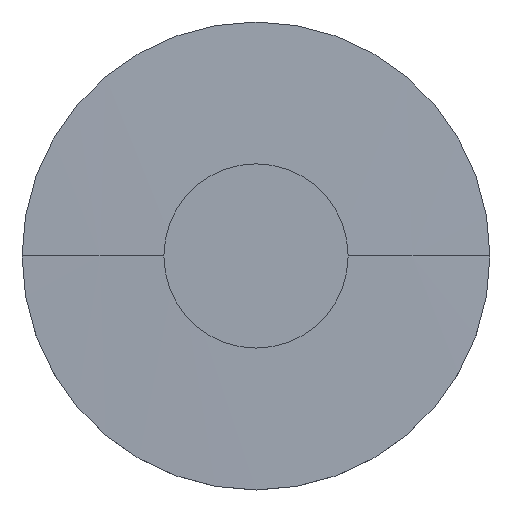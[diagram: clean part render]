
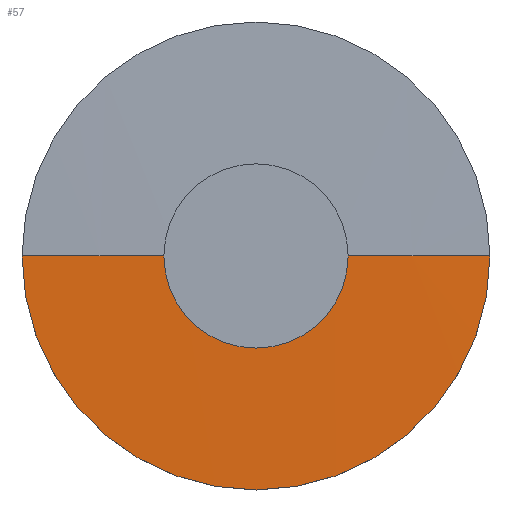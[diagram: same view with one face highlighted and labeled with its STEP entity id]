
A CAD part, top view. The second image highlights one B-rep face of the part: STEP entity #57.
In plain terms, the highlighted spherical face has radius 1060.45 mm.
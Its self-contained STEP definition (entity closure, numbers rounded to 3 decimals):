
#57=ADVANCED_FACE('',(#71),#72,.T.);
#71=FACE_OUTER_BOUND('',#91,.T.);
#72=SPHERICAL_SURFACE('',#92,1060.445);
#91=EDGE_LOOP('',(#124,#125,#126));
#92=AXIS2_PLACEMENT_3D('',#127,#128,#129);
#124=ORIENTED_EDGE('',*,*,#173,.T.);
#125=ORIENTED_EDGE('',*,*,#174,.T.);
#126=ORIENTED_EDGE('',*,*,#175,.T.);
#127=CARTESIAN_POINT('',(0.0,0.0,-1054.945));
#128=DIRECTION('',(0.0,0.0,1.0));
#129=DIRECTION('',(1.0,0.0,0.0));
#173=EDGE_CURVE('',#189,#194,#195,.T.);
#174=EDGE_CURVE('',#194,#191,#196,.T.);
#175=EDGE_CURVE('',#191,#189,#197,.T.);
#189=VERTEX_POINT('',#215);
#191=VERTEX_POINT('',#218);
#194=VERTEX_POINT('',#222);
#195=CIRCLE('',#223,1060.445);
#196=CIRCLE('',#224,1060.445);
#197=CIRCLE('',#225,25.4);
#215=CARTESIAN_POINT('',(25.4,0.,5.196));
#218=CARTESIAN_POINT('',(-25.4,0.,5.196));
#222=CARTESIAN_POINT('',(0.0,0.0,5.5));
#223=AXIS2_PLACEMENT_3D('',#253,#254,#255);
#224=AXIS2_PLACEMENT_3D('',#256,#257,#258);
#225=AXIS2_PLACEMENT_3D('',#259,#260,#261);
#253=CARTESIAN_POINT('',(0.0,0.0,-1054.945));
#254=DIRECTION('',(0.,-1.0,0.0));
#255=DIRECTION('',(0.0,0.0,1.0));
#256=CARTESIAN_POINT('',(0.0,0.0,-1054.945));
#257=DIRECTION('',(0.,-1.0,0.0));
#258=DIRECTION('',(0.0,0.0,1.0));
#259=CARTESIAN_POINT('',(0.0,0.0,5.196));
#260=DIRECTION('',(0.0,0.0,1.0));
#261=DIRECTION('',(1.0,0.0,0.0));
